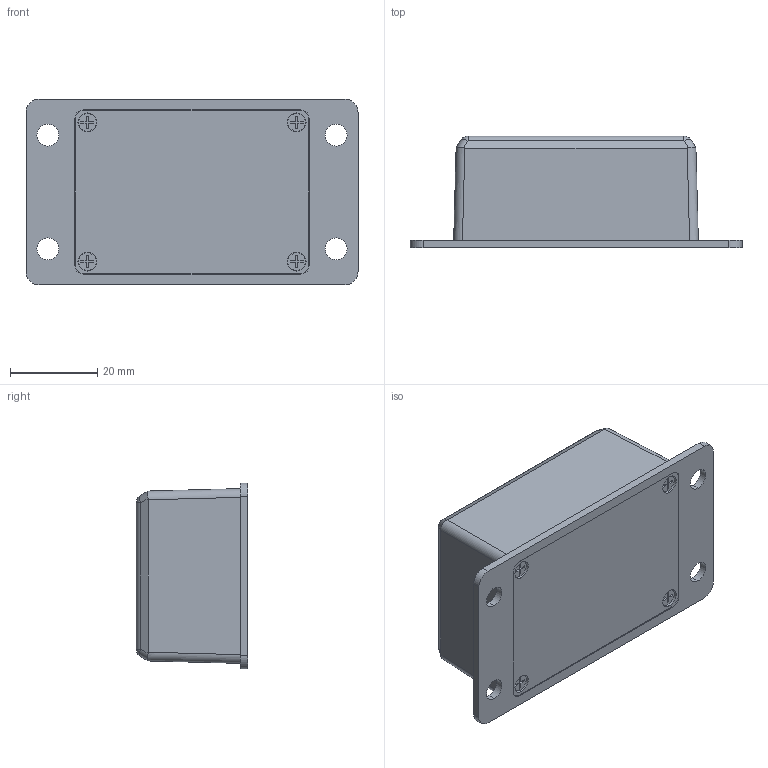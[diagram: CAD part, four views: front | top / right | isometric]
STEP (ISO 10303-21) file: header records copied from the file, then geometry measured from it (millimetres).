
FILE_DESCRIPTION (( 'STEP AP214' ), '1' );
FILE_NAME ('Conjunt PP94 D.STEP', '2017-07-31T08:08:05', ( 'aaa' ), ( '' ), 'SwSTEP 2.0', 'SolidWorks 2013', '' );
FILE_SCHEMA (( 'AUTOMOTIVE_DESIGN' ));
Length unit declared in the file: millimetre
Products named in the file (5): Cargol 2,1x6,5 PP94 D; Cargol 2,2x9,3 PP94 D; Tapa PP94 D; Cos PP94 D; Conjunt PP94 D
Assembly tree (7 placements, depth 2):
  Conjunt PP94 D
    Cos PP94 D
    Tapa PP94 D
    Cargol 2,2x9,3 PP94 D  x4
    Cargol 2,1x6,5 PP94 D
Bounding box: 76 x 25.5 x 42.5 mm (x, y, z)
Volume: 17322.6 mm3; surface area: 21546.3 mm2
Topology: 7 solids, 7 shells, 528 faces, 1190 edges, 681 vertices
Faces by surface type: cone 302, plane 132, cylinder 88, sphere 4, torus 2
Entity records: 8248 total; most frequent: DIRECTION 1478, CARTESIAN_POINT 1438, ORIENTED_EDGE 1320, EDGE_CURVE 660, AXIS2_PLACEMENT_3D 554, VERTEX_POINT 402, VECTOR 370, LINE 370
